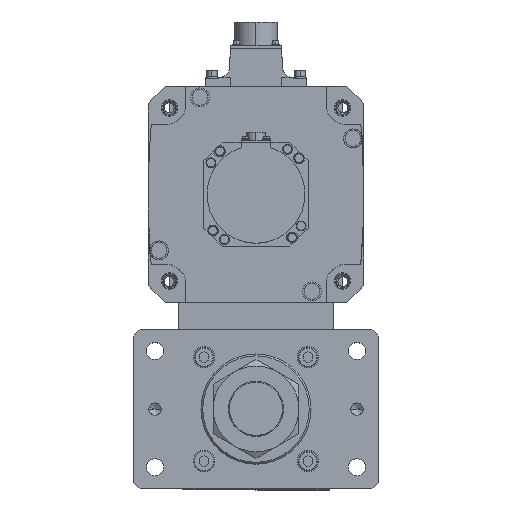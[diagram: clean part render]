
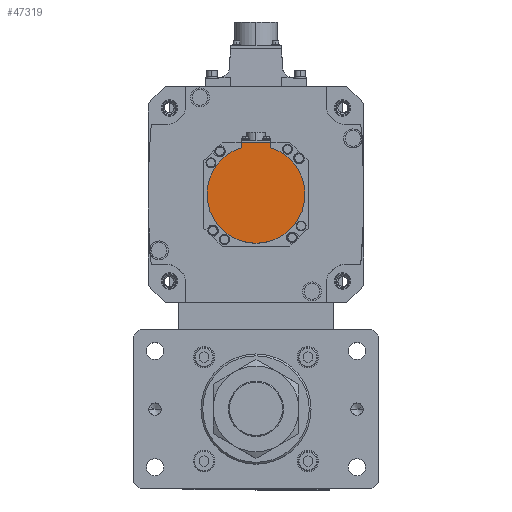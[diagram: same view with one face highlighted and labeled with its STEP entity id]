
A CAD part, top view. The second image highlights one B-rep face of the part: STEP entity #47319.
In plain terms, the highlighted planar face has unit normal (0, 0, 1) as drawn and (0, 0, -1) by its records, which use the part's own axes.
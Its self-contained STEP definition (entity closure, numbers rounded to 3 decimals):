
#1937 = AXIS2_PLACEMENT_3D ( 'NONE', #43614, #43789, #19770 ) ;
#2099 = DIRECTION ( 'NONE',  ( 1., 0., 0. ) ) ;
#2651 = CARTESIAN_POINT ( 'NONE',  ( 0., 0., -138.5 ) ) ;
#3516 = CARTESIAN_POINT ( 'NONE',  ( 0., 0., -138.5 ) ) ;
#5144 = CARTESIAN_POINT ( 'NONE',  ( -40., 0., -138.5 ) ) ;
#5618 = CARTESIAN_POINT ( 'NONE',  ( 0., 0., -138.5 ) ) ;
#9386 = ORIENTED_EDGE ( 'NONE', *, *, #26174, .T. ) ;
#10759 = DIRECTION ( 'NONE',  ( 0., 1., 0. ) ) ;
#11491 = PLANE ( 'NONE',  #1937 ) ;
#12688 = CARTESIAN_POINT ( 'NONE',  ( 12., -42.5, -138.5 ) ) ;
#12753 = VERTEX_POINT ( 'NONE', #23596 ) ;
#13905 = CIRCLE ( 'NONE', #22824, 40. ) ;
#13925 = LINE ( 'NONE', #42146, #37235 ) ;
#14601 = CARTESIAN_POINT ( 'NONE',  ( -12., -38.158, -138.5 ) ) ;
#15283 = ORIENTED_EDGE ( 'NONE', *, *, #38832, .F. ) ;
#15687 = VECTOR ( 'NONE', #18310, 1000. ) ;
#16309 = CIRCLE ( 'NONE', #19382, 40. ) ;
#17283 = AXIS2_PLACEMENT_3D ( 'NONE', #2651, #46900, #38472 ) ;
#17554 = EDGE_CURVE ( 'NONE', #32634, #49384, #16309, .T. ) ;
#18204 = LINE ( 'NONE', #31102, #15687 ) ;
#18310 = DIRECTION ( 'NONE',  ( 0., 1., 0. ) ) ;
#19382 = AXIS2_PLACEMENT_3D ( 'NONE', #5618, #25834, #37930 ) ;
#19770 = DIRECTION ( 'NONE',  ( 1., 0., 0. ) ) ;
#20885 = ORIENTED_EDGE ( 'NONE', *, *, #27818, .F. ) ;
#20889 = VECTOR ( 'NONE', #10759, 1000. ) ;
#22556 = VERTEX_POINT ( 'NONE', #12688 ) ;
#22824 = AXIS2_PLACEMENT_3D ( 'NONE', #3516, #46358, #2099 ) ;
#23596 = CARTESIAN_POINT ( 'NONE',  ( -12., -42.5, -138.5 ) ) ;
#23944 = EDGE_CURVE ( 'NONE', #22556, #12753, #13925, .T. ) ;
#24499 = FACE_OUTER_BOUND ( 'NONE', #34774, .T. ) ;
#24661 = LINE ( 'NONE', #50451, #20889 ) ;
#25195 = CARTESIAN_POINT ( 'NONE',  ( 12., -38.158, -138.5 ) ) ;
#25834 = DIRECTION ( 'NONE',  ( 0., 0., 1. ) ) ;
#26174 = EDGE_CURVE ( 'NONE', #12753, #48252, #24661, .T. ) ;
#27818 = EDGE_CURVE ( 'NONE', #22556, #39269, #18204, .T. ) ;
#29573 = ORIENTED_EDGE ( 'NONE', *, *, #23944, .T. ) ;
#31102 = CARTESIAN_POINT ( 'NONE',  ( 12., -1.249, -138.5 ) ) ;
#32333 = CIRCLE ( 'NONE', #17283, 40. ) ;
#32634 = VERTEX_POINT ( 'NONE', #39657 ) ;
#33913 = DIRECTION ( 'NONE',  ( -1., 0., 0. ) ) ;
#34774 = EDGE_LOOP ( 'NONE', ( #9386, #50235, #36469, #15283, #20885, #29573 ) ) ;
#36469 = ORIENTED_EDGE ( 'NONE', *, *, #17554, .F. ) ;
#37235 = VECTOR ( 'NONE', #33913, 1000. ) ;
#37930 = DIRECTION ( 'NONE',  ( 1., 0., 0. ) ) ;
#38472 = DIRECTION ( 'NONE',  ( 1., 0., 0. ) ) ;
#38832 = EDGE_CURVE ( 'NONE', #39269, #32634, #13905, .T. ) ;
#39269 = VERTEX_POINT ( 'NONE', #25195 ) ;
#39657 = CARTESIAN_POINT ( 'NONE',  ( 40., 0., -138.5 ) ) ;
#42146 = CARTESIAN_POINT ( 'NONE',  ( 0., -42.5, -138.5 ) ) ;
#43050 = EDGE_CURVE ( 'NONE', #49384, #48252, #32333, .T. ) ;
#43614 = CARTESIAN_POINT ( 'NONE',  ( 0., -1.249, -138.5 ) ) ;
#43789 = DIRECTION ( 'NONE',  ( 0., 0., 1. ) ) ;
#46358 = DIRECTION ( 'NONE',  ( 0., 0., 1. ) ) ;
#46900 = DIRECTION ( 'NONE',  ( 0., 0., 1. ) ) ;
#47319 = ADVANCED_FACE ( 'NONE', ( #24499 ), #11491, .F. ) ;
#48252 = VERTEX_POINT ( 'NONE', #14601 ) ;
#49384 = VERTEX_POINT ( 'NONE', #5144 ) ;
#50235 = ORIENTED_EDGE ( 'NONE', *, *, #43050, .F. ) ;
#50451 = CARTESIAN_POINT ( 'NONE',  ( -12., -40.329, -138.5 ) ) ;
